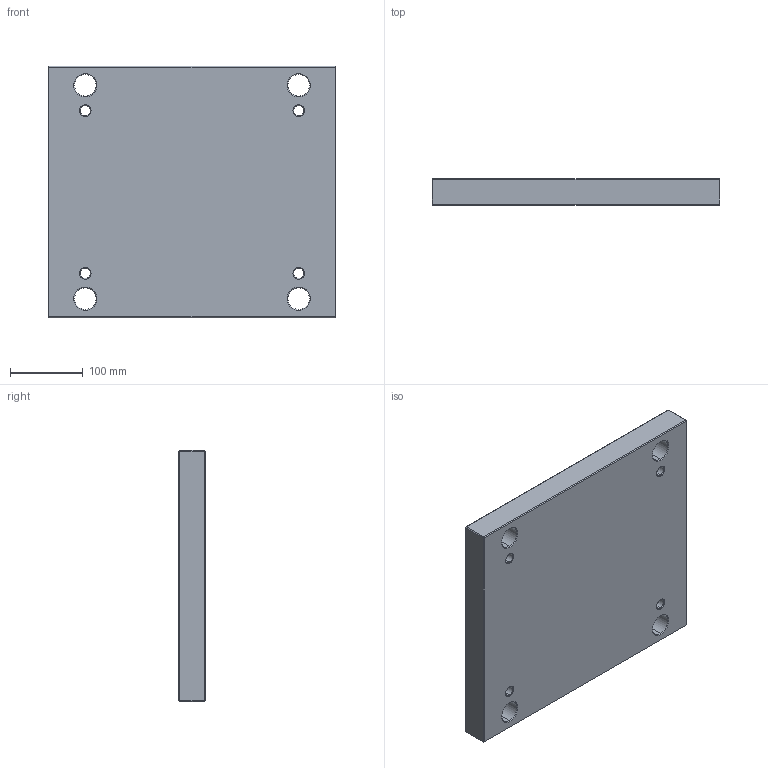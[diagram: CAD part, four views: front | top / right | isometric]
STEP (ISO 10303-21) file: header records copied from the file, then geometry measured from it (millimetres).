
FILE_DESCRIPTION (( 'STEP AP214' ), '1' );
FILE_NAME ('PBA-EU-346x346x36.STEP', '2020-03-10T15:44:54', ( 'August' ), ( '' ), 'SwSTEP 2.0', 'SolidWorks 2018', '' );
FILE_SCHEMA (( 'AUTOMOTIVE_DESIGN' ));
Length unit declared in the file: millimetre
Products named in the file (1): PBA-EU-346x346x36
Bounding box: 396 x 36 x 346 mm (x, y, z)
Volume: 4797490.9 mm3; surface area: 339033.2 mm2
Topology: 1 solids, 1 shells, 86 faces, 184 edges, 104 vertices
Faces by surface type: cone 32, plane 30, cylinder 24
Entity records: 2346 total; most frequent: DIRECTION 438, CARTESIAN_POINT 375, ORIENTED_EDGE 368, EDGE_CURVE 184, AXIS2_PLACEMENT_3D 167, EDGE_LOOP 106, VECTOR 104, LINE 104
